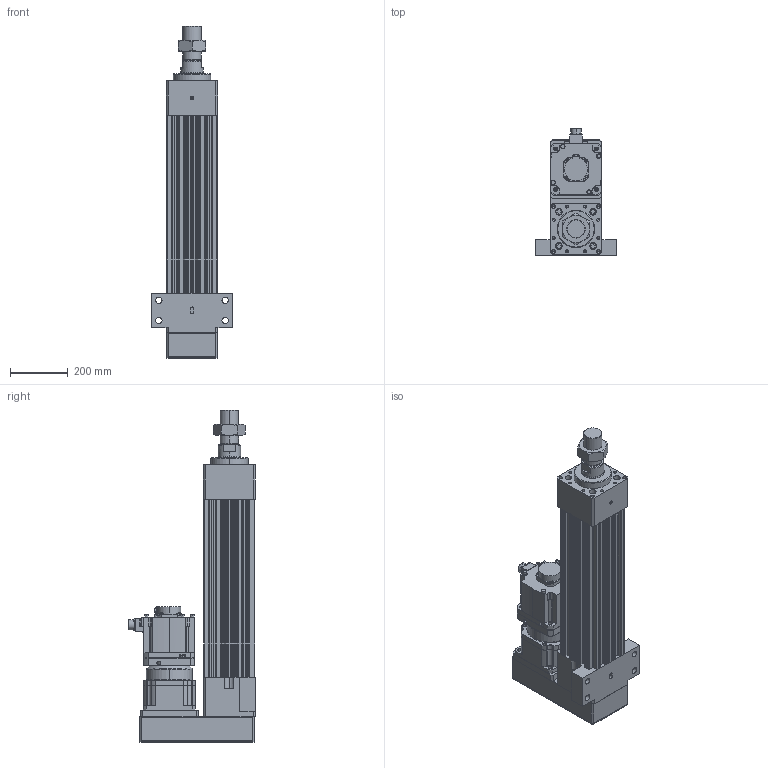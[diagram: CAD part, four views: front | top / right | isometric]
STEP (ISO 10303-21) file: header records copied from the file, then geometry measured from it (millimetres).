
FILE_DESCRIPTION (( 'STEP AP203' ), '1' );
FILE_NAME ('HES180HS-P300-W050G00-M-FFC.STEP', '2023-02-01T07:15:45', ( 'tms' ), ( '' ), 'SwSTEP 2.0', 'SolidWorks 2013', '' );
FILE_SCHEMA (( 'CONFIG_CONTROL_DESIGN' ));
Length unit declared in the file: millimetre
Products named in the file (9): HES180-P300-G180-FFC; AB1801; HES180 ROD M ST300; AB180-003[HG-SR702B]; HES180HS-P300-W050G00-M-FFC; HG-SR502; M64X2.0P; P1301600001; P0403600401
Assembly tree (8 placements, depth 3):
  HES180HS-P300-W050G00-M-FFC
    HES180-P300-G180-FFC
    HES180 ROD M ST300
    M64X2.0P
    AB180-003[HG-SR702B]
      AB1801
      P1301600001
      P0403600401
    HG-SR502
Bounding box: 280 x 438.85 x 1152 mm (x, y, z)
Volume: 26976292.8 mm3; surface area: 2291055.6 mm2
Topology: 4 solids, 19 shells, 1474 faces, 3821 edges, 2463 vertices
Faces by surface type: cylinder 686, plane 553, cone 168, bspline 63, torus 4
Entity records: 53682 total; most frequent: CARTESIAN_POINT 16162, DIRECTION 7905, ORIENTED_EDGE 7498, EDGE_CURVE 3773, AXIS2_PLACEMENT_3D 2986, VERTEX_POINT 2463, VECTOR 1933, LINE 1933
